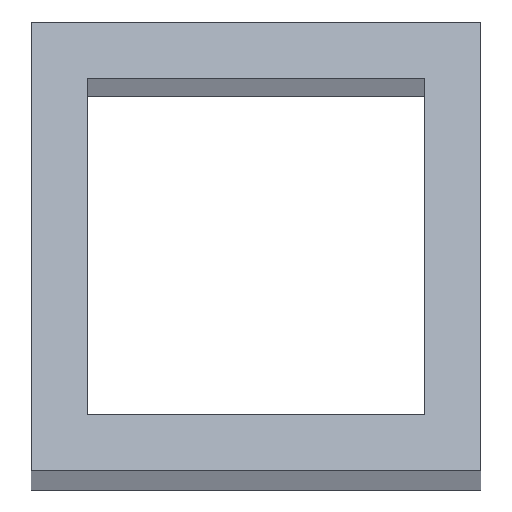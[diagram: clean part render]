
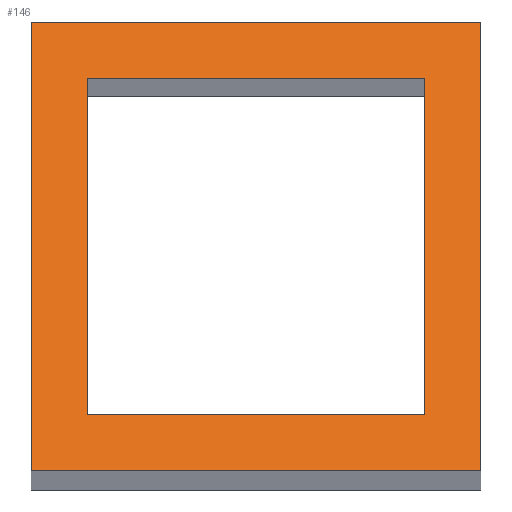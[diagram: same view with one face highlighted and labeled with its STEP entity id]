
A CAD part, top view. The second image highlights one B-rep face of the part: STEP entity #146.
In plain terms, the highlighted planar face has unit normal (0, 0.707, 0.707).
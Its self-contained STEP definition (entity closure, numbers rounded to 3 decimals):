
#32 = VERTEX_POINT('',#33);
#33 = CARTESIAN_POINT('',(547.2,412.413,625.325));
#39 = EDGE_CURVE('',#32,#40,#42,.T.);
#40 = VERTEX_POINT('',#41);
#41 = CARTESIAN_POINT('',(566.25,412.413,625.325));
#42 = LINE('',#43,#44);
#43 = CARTESIAN_POINT('',(547.2,412.413,625.325));
#44 = VECTOR('',#45,1.);
#45 = DIRECTION('',(1.,0.,0.));
#129 = VERTEX_POINT('',#130);
#130 = CARTESIAN_POINT('',(566.25,431.463,606.275));
#136 = EDGE_CURVE('',#40,#129,#137,.T.);
#137 = LINE('',#138,#139);
#138 = CARTESIAN_POINT('',(566.25,722.238,315.5));
#139 = VECTOR('',#140,1.);
#140 = DIRECTION('',(0.,0.707,-0.707));
#146 = ADVANCED_FACE('',(#147,#197),#215,.F.);
#147 = FACE_BOUND('',#148,.F.);
#148 = EDGE_LOOP('',(#149,#159,#167,#175,#183,#191));
#149 = ORIENTED_EDGE('',*,*,#150,.F.);
#150 = EDGE_CURVE('',#151,#153,#155,.T.);
#151 = VERTEX_POINT('',#152);
#152 = CARTESIAN_POINT('',(566.25,434.638,603.1));
#153 = VERTEX_POINT('',#154);
#154 = CARTESIAN_POINT('',(547.2,434.638,603.1));
#155 = LINE('',#156,#157);
#156 = CARTESIAN_POINT('',(543.363,434.638,603.1));
#157 = VECTOR('',#158,1.);
#158 = DIRECTION('',(-1.,0.,0.));
#159 = ORIENTED_EDGE('',*,*,#160,.T.);
#160 = EDGE_CURVE('',#151,#161,#163,.T.);
#161 = VERTEX_POINT('',#162);
#162 = CARTESIAN_POINT('',(569.425,434.638,603.1));
#163 = LINE('',#164,#165);
#164 = CARTESIAN_POINT('',(543.025,434.638,603.1));
#165 = VECTOR('',#166,1.);
#166 = DIRECTION('',(1.,0.,0.));
#167 = ORIENTED_EDGE('',*,*,#168,.F.);
#168 = EDGE_CURVE('',#169,#161,#171,.T.);
#169 = VERTEX_POINT('',#170);
#170 = CARTESIAN_POINT('',(569.425,409.238,628.5));
#171 = LINE('',#172,#173);
#172 = CARTESIAN_POINT('',(569.425,722.238,315.5));
#173 = VECTOR('',#174,1.);
#174 = DIRECTION('',(0.,0.707,-0.707));
#175 = ORIENTED_EDGE('',*,*,#176,.F.);
#176 = EDGE_CURVE('',#177,#169,#179,.T.);
#177 = VERTEX_POINT('',#178);
#178 = CARTESIAN_POINT('',(544.025,409.238,628.5));
#179 = LINE('',#180,#181);
#180 = CARTESIAN_POINT('',(544.025,409.238,628.5));
#181 = VECTOR('',#182,1.);
#182 = DIRECTION('',(1.,0.,0.));
#183 = ORIENTED_EDGE('',*,*,#184,.T.);
#184 = EDGE_CURVE('',#177,#185,#187,.T.);
#185 = VERTEX_POINT('',#186);
#186 = CARTESIAN_POINT('',(544.025,434.638,603.1));
#187 = LINE('',#188,#189);
#188 = CARTESIAN_POINT('',(544.025,722.238,315.5));
#189 = VECTOR('',#190,1.);
#190 = DIRECTION('',(0.,0.707,-0.707));
#191 = ORIENTED_EDGE('',*,*,#192,.T.);
#192 = EDGE_CURVE('',#185,#153,#193,.T.);
#193 = LINE('',#194,#195);
#194 = CARTESIAN_POINT('',(543.025,434.638,603.1));
#195 = VECTOR('',#196,1.);
#196 = DIRECTION('',(1.,0.,0.));
#197 = FACE_BOUND('',#198,.F.);
#198 = EDGE_LOOP('',(#199,#207,#208,#209));
#199 = ORIENTED_EDGE('',*,*,#200,.F.);
#200 = EDGE_CURVE('',#32,#201,#203,.T.);
#201 = VERTEX_POINT('',#202);
#202 = CARTESIAN_POINT('',(547.2,431.463,606.275));
#203 = LINE('',#204,#205);
#204 = CARTESIAN_POINT('',(547.2,722.238,315.5));
#205 = VECTOR('',#206,1.);
#206 = DIRECTION('',(0.,0.707,-0.707));
#207 = ORIENTED_EDGE('',*,*,#39,.T.);
#208 = ORIENTED_EDGE('',*,*,#136,.T.);
#209 = ORIENTED_EDGE('',*,*,#210,.F.);
#210 = EDGE_CURVE('',#201,#129,#211,.T.);
#211 = LINE('',#212,#213);
#212 = CARTESIAN_POINT('',(544.025,431.463,606.275));
#213 = VECTOR('',#214,1.);
#214 = DIRECTION('',(1.,0.,0.));
#215 = PLANE('',#216);
#216 = AXIS2_PLACEMENT_3D('',#217,#218,#219);
#217 = CARTESIAN_POINT('',(530.,722.238,315.5));
#218 = DIRECTION('',(0.,-0.707,-0.707));
#219 = DIRECTION('',(0.,-0.707,0.707));
